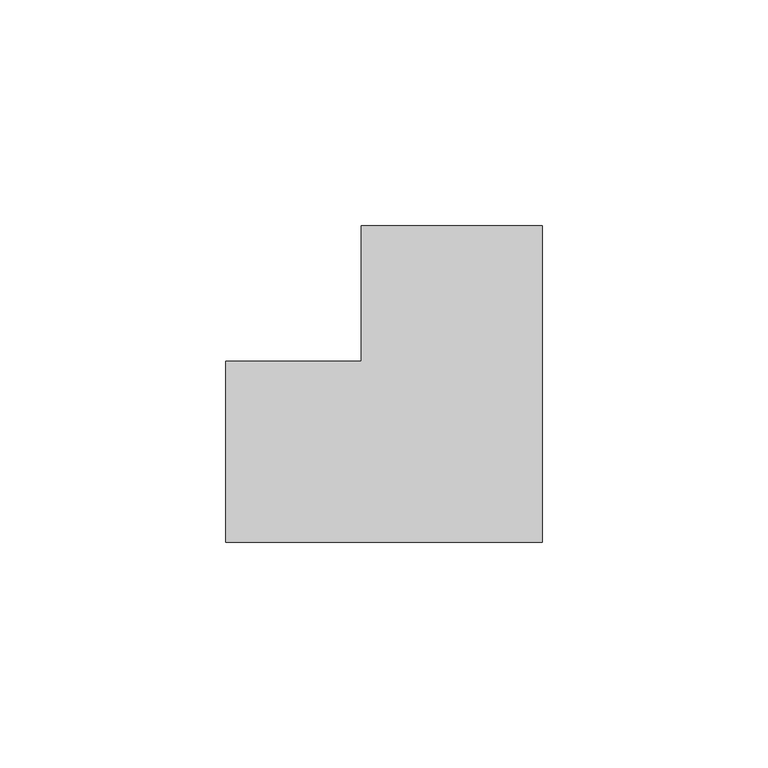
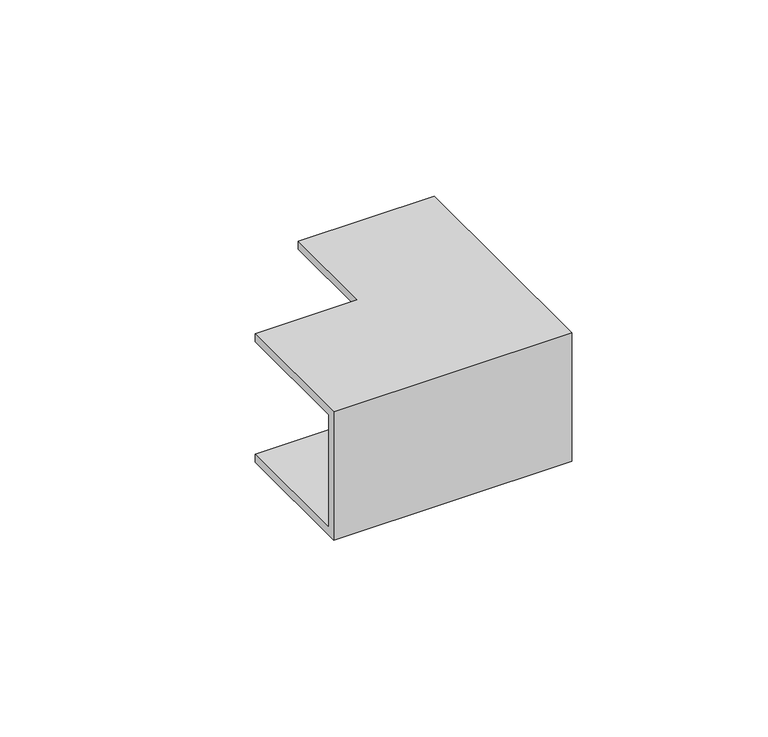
"""IFC4 building model written with IfcOpenShell, lengths in millimetres: cable carrier fitting geometry, КНС_УголВнутренний_ILC_DKC : Угол внутренний_DKC."""

import ifcopenshell
import ifcopenshell.guid

model = None  # the IFC model being written
_history = None  # IfcOwnerHistory: only IFC2X3 demands one
_inside = {}  # id of a spatial element -> (the spatial element, [elements in it])
_under = {}  # id of a project, library or spatial element -> (it, [spatial elements below it])
_declared = {}  # id of a project -> (the project, [libraries it declares])
_typed = {}  # id of a type object -> (the type object, [elements of that type])
_made_of = {}  # id of a material, layer set ... -> (it, [elements and type objects made of it])


def new_model(schema):
    """Start an empty IFC model of exactly this schema.

    Asked for "IFC4X3", IfcOpenShell would pick the latest addendum, in which some entities
    have other attributes; the version numbers below select the first issue.
    IFC2X3 requires an IfcOwnerHistory on every rooted entity: one is made here for all.
    """
    global model, _history
    if schema == "IFC4X3":
        model = ifcopenshell.file(schema_version=(4, 3, 0, 0))
    else:
        model = ifcopenshell.file(schema=schema)
    _inside.clear()
    _under.clear()
    _declared.clear()
    _typed.clear()
    _made_of.clear()
    _history = None
    if model.schema == "IFC2X3":
        org = make("IfcOrganization", Name="unknown")
        user = make(
            "IfcPersonAndOrganization",
            ThePerson=make("IfcPerson", FamilyName="unknown"),
            TheOrganization=org,
        )
        app = make(
            "IfcApplication",
            ApplicationDeveloper=org,
            Version="unknown",
            ApplicationFullName="unknown",
            ApplicationIdentifier="unknown",
        )
        _history = make(
            "IfcOwnerHistory",
            OwningUser=user,
            OwningApplication=app,
            ChangeAction="ADDED",
            CreationDate=0,
        )
    return model


def make(cls, **values):
    """One entity of the class cls with the attributes given. An attribute that is None is left unset."""
    return model.create_entity(
        cls, **{name: value for name, value in values.items() if value is not None}
    )


def rooted(cls, **values):
    """An entity with a GlobalId (a new one), such as an element, a storey or a relation."""
    return make(cls, GlobalId=ifcopenshell.guid.new(), OwnerHistory=_history, **values)


def si_unit(unit_type, name, prefix=None):
    """IfcSIUnit, for example si_unit("LENGTHUNIT", "METRE", prefix="MILLI")."""
    return make("IfcSIUnit", UnitType=unit_type, Prefix=prefix, Name=name)


def assignment(units):
    """IfcUnitAssignment: the units of a project."""
    return None if units is None else make("IfcUnitAssignment", Units=units)


def point(xyz):
    """IfcCartesianPoint."""
    return None if xyz is None else make("IfcCartesianPoint", Coordinates=xyz)


def direction(xyz):
    """IfcDirection."""
    return None if xyz is None else make("IfcDirection", DirectionRatios=xyz)


def frame(location, z_axis=None, x_axis=None):
    """IfcAxis2Placement3D, a coordinate frame: its origin and axes. An axis left out is left unset."""
    return make(
        "IfcAxis2Placement3D",
        Location=point(location),
        Axis=direction(z_axis),
        RefDirection=direction(x_axis),
    )


def origin():
    """The frame at (0, 0, 0) with its axes left unset."""
    return frame((0.0, 0.0, 0.0))


def place(relative_to, where):
    """IfcLocalPlacement: puts the frame where relative to a parent placement (None: the world)."""
    return make(
        "IfcLocalPlacement", PlacementRelTo=relative_to, RelativePlacement=where
    )


def context(
    kind, dimensions, precision=None, world=None, true_north=None, identifier=None
):
    """IfcGeometricRepresentationContext, for example the 3D "Model" context."""
    return make(
        "IfcGeometricRepresentationContext",
        ContextIdentifier=identifier,
        ContextType=kind,
        CoordinateSpaceDimension=dimensions,
        Precision=precision,
        WorldCoordinateSystem=world,
        TrueNorth=true_north,
    )


def project(units=None, contexts=None):
    """IfcProject with its units and contexts."""
    return rooted(
        "IfcProject",
        Name="project",
        RepresentationContexts=contexts,
        UnitsInContext=assignment(units),
    )


def spatial(cls, under=None, at=None, **own):
    """A site, building, storey or space (cls), placed at a placement, below another one or the project."""
    s = rooted(cls, ObjectPlacement=at, **own)
    if under is not None:
        _under.setdefault(under.id(), (under, []))[1].append(s)
    return s


def faces_of(points, faces, orient=None, outer=None):
    """IfcFace entities. A face is a list of loops; a loop is a list of indices into points, from 0.

    orient and outer hold one flag for each loop. By default every Orientation is true, the
    first loop of a face is its IfcFaceOuterBound and the others are IfcFaceBound.
    """
    made = []
    for i, loops in enumerate(faces):
        bounds = []
        for j, loop in enumerate(loops):
            is_outer = j == 0 if outer is None else outer[i][j]
            bounds.append(
                make(
                    "IfcFaceOuterBound" if is_outer else "IfcFaceBound",
                    Bound=make("IfcPolyLoop", Polygon=[points[k] for k in loop]),
                    Orientation=True if orient is None else orient[i][j],
                )
            )
        made.append(make("IfcFace", Bounds=bounds))
    return made


def faceted_brep(points, faces, orient=None, outer=None, voids=None):
    """IfcFacetedBrep: a solid bounded by flat faces; with voids (closed shells), ...WithVoids."""
    shared = [point(p) for p in points]
    hull = make("IfcClosedShell", CfsFaces=faces_of(shared, faces, orient, outer))
    if voids is None:
        return make("IfcFacetedBrep", Outer=hull)
    return make(
        "IfcFacetedBrepWithVoids",
        Outer=hull,
        Voids=[
            make(cls, CfsFaces=faces_of(shared, fs, o, b)) for cls, fs, o, b in voids
        ],
    )


def shape(context_of_items, identifier, shape_type, items):
    """IfcShapeRepresentation: the items that make up one representation, for example the "Body"."""
    return make(
        "IfcShapeRepresentation",
        ContextOfItems=context_of_items,
        RepresentationIdentifier=identifier,
        RepresentationType=shape_type,
        Items=items,
    )


def source(mapping_origin, context_of_items, identifier, shape_type, items):
    """IfcRepresentationMap: a shape defined once, which mapped items show again and again."""
    return make(
        "IfcRepresentationMap",
        MappingOrigin=mapping_origin,
        MappedRepresentation=shape(context_of_items, identifier, shape_type, items),
    )


def transform(
    local_origin,
    x_axis=None,
    y_axis=None,
    z_axis=None,
    scale=None,
    scale2=None,
    scale3=None,
    uniform=True,
):
    """IfcCartesianTransformationOperator3D, or its non-uniform kind. x_axis, y_axis, z_axis: its Axis1, 2, 3."""
    if uniform:
        return make(
            "IfcCartesianTransformationOperator3D",
            Axis1=direction(x_axis),
            Axis2=direction(y_axis),
            LocalOrigin=point(local_origin),
            Scale=scale,
            Axis3=direction(z_axis),
        )
    return make(
        "IfcCartesianTransformationOperator3DnonUniform",
        Axis1=direction(x_axis),
        Axis2=direction(y_axis),
        LocalOrigin=point(local_origin),
        Scale=scale,
        Axis3=direction(z_axis),
        Scale2=scale2,
        Scale3=scale3,
    )


def mapped(mapping_source, mapping_target):
    """IfcMappedItem: shows the shape of a source again, moved by a transform."""
    return make(
        "IfcMappedItem", MappingSource=mapping_source, MappingTarget=mapping_target
    )


def made_of(thing, what):
    """Note that an element or type object is made of a material, layer set ...; save() writes the relation."""
    if what is not None:
        _made_of.setdefault(what.id(), (what, []))[1].append(thing)
    return thing


def element(
    cls,
    number,
    at=None,
    inside=None,
    cuts=None,
    type_object=None,
    material=None,
    context=None,
    identifier="Body",
    shape_type=None,
    held_by="IfcProductDefinitionShape",
    body=None,
    shapes=None,
    **own,
):
    """One element of the class cls, such as IfcWall. Its Tag is "e" and its number.

    at: its placement. inside: the storey or other place that contains it. cuts: it is an
    opening in that element (IfcRelVoidsElement). A single representation is given by context,
    identifier, shape_type and body (its items); several are given by shapes. held_by: the class
    of the entity that holds the representations. save() writes the other relations.
    """
    e = rooted(cls, Tag="e%d" % number, ObjectPlacement=at, **own)
    if body is not None:
        shapes = [shape(context, identifier, shape_type, body)]
    if shapes is not None:
        e.Representation = make(held_by, Representations=shapes)
    if inside is not None:
        _inside.setdefault(inside.id(), (inside, []))[1].append(e)
    if cuts is not None:
        rooted(
            "IfcRelVoidsElement", RelatingBuildingElement=cuts, RelatedOpeningElement=e
        )
    if type_object is not None:
        _typed.setdefault(type_object.id(), (type_object, []))[1].append(e)
    return made_of(e, material)


def aggregate(whole, parts):
    """IfcRelAggregates: a whole, such as a stair, and the parts it consists of."""
    return rooted("IfcRelAggregates", RelatingObject=whole, RelatedObjects=parts)


def save(model, path):
    """Write the relations noted so far, then the file.

    IfcRelAggregates (storeys below a building ...), IfcRelContainedInSpatialStructure (elements
    in a storey), IfcRelDefinesByType, IfcRelAssociatesMaterial and IfcRelDeclares: one each for
    every whole, place, type object, material and project.
    """
    for whole, parts in _under.values():
        aggregate(whole, parts)
    for where, things in _inside.values():
        rooted(
            "IfcRelContainedInSpatialStructure",
            RelatedElements=things,
            RelatingStructure=where,
        )
    for kind, things in _typed.values():
        rooted("IfcRelDefinesByType", RelatedObjects=things, RelatingType=kind)
    for what, things in _made_of.values():
        rooted("IfcRelAssociatesMaterial", RelatedObjects=things, RelatingMaterial=what)
    for by, libraries in _declared.values():
        rooted("IfcRelDeclares", RelatingContext=by, RelatedDefinitions=libraries)
    model.write(path)


def cable_carrier_fitting_56f15a03(model_context):
    return source(origin(), model_context, "Body", "Brep", [
        faceted_brep([(-50.0, -20.0, 20.0), (-50.0, 20.0, 20.0), (-50.0, 20.0, 17.5), (-50.0, -17.5, 17.5), (-50.0, -17.5, -17.5), (-50.0, 20.0, -17.5), (-50.0, 20.0, -20.0), (-50.0, -20.0, -20.0), (20.0, 50.0, 20.0), (20.0, 50.0, -20.0), (-20.0, 50.0, -20.0), (-20.0, 50.0, -17.5), (17.5, 50.0, -17.5), (17.5, 50.0, 17.5), (-20.0, 50.0, 17.5), (-20.0, 50.0, 20.0), (20.0, -20.0, 20.0), (-20.0, 20.0, 20.0), (-20.0, 20.0, 17.5), (17.5, -17.5, 17.5), (17.5, -17.5, -17.5), (-20.0, 20.0, -17.5), (-20.0, 20.0, -20.0), (20.0, -20.0, -20.0)], [[[0, 1, 2, 3, 4, 5, 6, 7]], [[8, 9, 10, 11, 12, 13, 14, 15]], [[1, 0, 16, 8, 15, 17]], [[2, 1, 17, 18]], [[3, 2, 18, 14, 13, 19]], [[4, 3, 19, 20]], [[5, 4, 20, 12, 11, 21]], [[6, 5, 21, 22]], [[7, 6, 22, 10, 9, 23]], [[0, 7, 23, 16]], [[18, 17, 15, 14]], [[20, 19, 13, 12]], [[22, 21, 11, 10]], [[16, 23, 9, 8]]]),
    ])


if __name__ == "__main__":
    model = new_model("IFC4")
    model_context = context("Model", 3, world=origin())
    ifc_project = project(units=[si_unit("LENGTHUNIT", "METRE", prefix="MILLI")], contexts=[model_context])
    site = spatial("IfcSite", under=ifc_project)
    building = spatial("IfcBuilding", under=site)
    placement = place(None, origin())
    cable_carrier_fitting_shape = cable_carrier_fitting_56f15a03(model_context)
    element("IfcCableCarrierFitting", 1, ObjectType="КНС_УголВнутренний_ILC_DKC : Угол внутренний_DKC", at=placement, inside=building, context=model_context, shape_type="MappedRepresentation", body=[
        mapped(cable_carrier_fitting_shape, transform((0.0, 0.0, 0.0), x_axis=(1.0, 0.0, 0.0), y_axis=(0.0, 1.0, 0.0), z_axis=(0.0, 0.0, 1.0))),
    ])
    save(model, "model.ifc")
